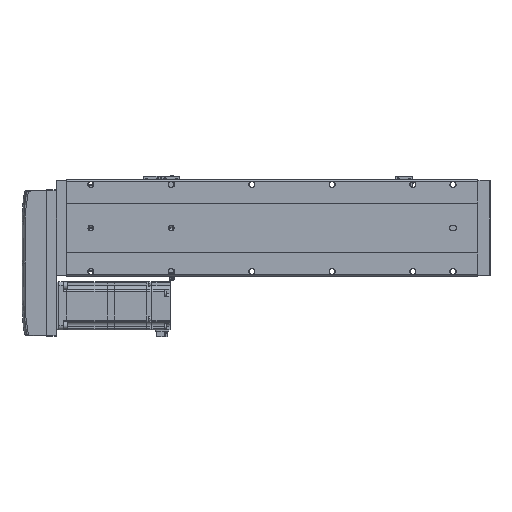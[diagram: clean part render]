
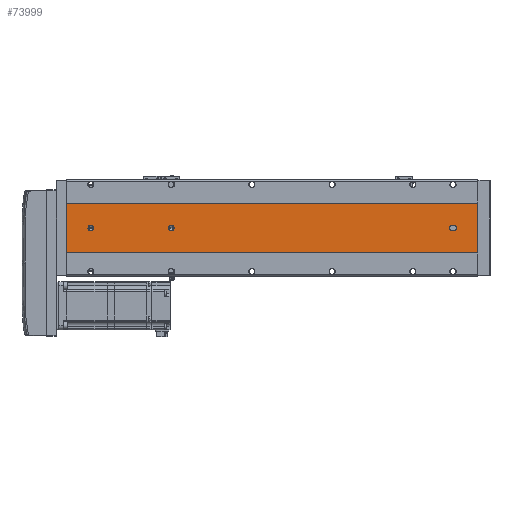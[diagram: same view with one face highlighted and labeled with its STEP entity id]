
A CAD part, front view. The second image highlights one B-rep face of the part: STEP entity #73999.
In plain terms, the highlighted planar face has unit normal (0, -1, 0).
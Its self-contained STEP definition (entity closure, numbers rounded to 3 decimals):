
#32 = VERTEX_POINT ( 'NONE', #16002 ) ;
#1090 = CIRCLE ( 'NONE', #43150, 3.5 ) ;
#2373 = DIRECTION ( 'NONE',  ( 0., 1., 0. ) ) ;
#3595 = VERTEX_POINT ( 'NONE', #73984 ) ;
#3776 = AXIS2_PLACEMENT_3D ( 'NONE', #74038, #30888, #61252 ) ;
#3975 = AXIS2_PLACEMENT_3D ( 'NONE', #27797, #63778, #57408 ) ;
#4975 = VERTEX_POINT ( 'NONE', #21003 ) ;
#5078 = VERTEX_POINT ( 'NONE', #34623 ) ;
#7511 = CARTESIAN_POINT ( 'NONE',  ( -39.892, -52.848, 26.5 ) ) ;
#8767 = DIRECTION ( 'NONE',  ( 1., 0., 0. ) ) ;
#9265 = CIRCLE ( 'NONE', #51108, 3.5 ) ;
#9279 = CARTESIAN_POINT ( 'NONE',  ( -69.892, -52.848, 0. ) ) ;
#10189 = FACE_BOUND ( 'NONE', #37100, .T. ) ;
#10254 = ORIENTED_EDGE ( 'NONE', *, *, #30155, .F. ) ;
#10426 = VECTOR ( 'NONE', #24933, 1000. ) ;
#10622 = EDGE_CURVE ( 'NONE', #23012, #3595, #67519, .T. ) ;
#12265 = CARTESIAN_POINT ( 'NONE',  ( -36.392, -52.848, 30. ) ) ;
#13264 = LINE ( 'NONE', #61424, #10426 ) ;
#13479 = AXIS2_PLACEMENT_3D ( 'NONE', #38010, #20091, #62771 ) ;
#14097 = DIRECTION ( 'NONE',  ( 0., 1., 0. ) ) ;
#14780 = CARTESIAN_POINT ( 'NONE',  ( -43.392, -52.848, 32. ) ) ;
#15010 = FACE_BOUND ( 'NONE', #38718, .T. ) ;
#16002 = CARTESIAN_POINT ( 'NONE',  ( -43.392, -52.848, 30. ) ) ;
#16941 = FACE_BOUND ( 'NONE', #43564, .T. ) ;
#17416 = EDGE_LOOP ( 'NONE', ( #20471, #10254, #39694, #28928 ) ) ;
#19001 = CARTESIAN_POINT ( 'NONE',  ( -69.892, -52.848, 511. ) ) ;
#20091 = DIRECTION ( 'NONE',  ( 0., 1., 0. ) ) ;
#20282 = PLANE ( 'NONE',  #64618 ) ;
#20471 = ORIENTED_EDGE ( 'NONE', *, *, #63886, .T. ) ;
#20847 = VERTEX_POINT ( 'NONE', #14780 ) ;
#21003 = CARTESIAN_POINT ( 'NONE',  ( -69.892, -52.848, 511. ) ) ;
#22027 = CARTESIAN_POINT ( 'NONE',  ( -36.392, -52.848, 511. ) ) ;
#23012 = VERTEX_POINT ( 'NONE', #50183 ) ;
#24044 = AXIS2_PLACEMENT_3D ( 'NONE', #26944, #14097, #39209 ) ;
#24933 = DIRECTION ( 'NONE',  ( 1., 0., 0. ) ) ;
#25640 = ORIENTED_EDGE ( 'NONE', *, *, #46051, .T. ) ;
#26485 = CARTESIAN_POINT ( 'NONE',  ( -69.892, -52.848, 511. ) ) ;
#26944 = CARTESIAN_POINT ( 'NONE',  ( -39.892, -52.848, 381. ) ) ;
#27272 = VERTEX_POINT ( 'NONE', #73099 ) ;
#27406 = ORIENTED_EDGE ( 'NONE', *, *, #27547, .T. ) ;
#27547 = EDGE_CURVE ( 'NONE', #71925, #40323, #9265, .T. ) ;
#27785 = DIRECTION ( 'NONE',  ( 0., 0., 1. ) ) ;
#27797 = CARTESIAN_POINT ( 'NONE',  ( -39.892, -52.848, 481. ) ) ;
#28135 = CIRCLE ( 'NONE', #3776, 3.5 ) ;
#28910 = ORIENTED_EDGE ( 'NONE', *, *, #55929, .T. ) ;
#28928 = ORIENTED_EDGE ( 'NONE', *, *, #36906, .T. ) ;
#29877 = ORIENTED_EDGE ( 'NONE', *, *, #39858, .T. ) ;
#30058 = DIRECTION ( 'NONE',  ( 0., 0., -1. ) ) ;
#30155 = EDGE_CURVE ( 'NONE', #50145, #55621, #53793, .T. ) ;
#30888 = DIRECTION ( 'NONE',  ( 0., 1., 0. ) ) ;
#31277 = FACE_OUTER_BOUND ( 'NONE', #17416, .T. ) ;
#31553 = CARTESIAN_POINT ( 'NONE',  ( -39.892, -52.848, 377.5 ) ) ;
#32585 = DIRECTION ( 'NONE',  ( 0., 1., 0. ) ) ;
#34179 = CARTESIAN_POINT ( 'NONE',  ( -39.892, -52.848, 30. ) ) ;
#34333 = CIRCLE ( 'NONE', #24044, 3.5 ) ;
#34623 = CARTESIAN_POINT ( 'NONE',  ( -36.392, -52.848, 32. ) ) ;
#35519 = EDGE_CURVE ( 'NONE', #4975, #50145, #13264, .T. ) ;
#35639 = VECTOR ( 'NONE', #30058, 1000. ) ;
#35769 = CIRCLE ( 'NONE', #13479, 3.5 ) ;
#35913 = CARTESIAN_POINT ( 'NONE',  ( -9.892, -52.848, 511. ) ) ;
#36493 = ORIENTED_EDGE ( 'NONE', *, *, #77334, .T. ) ;
#36906 = EDGE_CURVE ( 'NONE', #4975, #45544, #61669, .T. ) ;
#37100 = EDGE_LOOP ( 'NONE', ( #48145, #27406, #28910, #36493, #29877 ) ) ;
#37814 = VECTOR ( 'NONE', #67584, 1000. ) ;
#38010 = CARTESIAN_POINT ( 'NONE',  ( -39.892, -52.848, 32. ) ) ;
#38311 = DIRECTION ( 'NONE',  ( 0., 0., 1. ) ) ;
#38572 = CARTESIAN_POINT ( 'NONE',  ( -43.392, -52.848, 511. ) ) ;
#38718 = EDGE_LOOP ( 'NONE', ( #60186, #25640 ) ) ;
#39209 = DIRECTION ( 'NONE',  ( 0., 0., 1. ) ) ;
#39694 = ORIENTED_EDGE ( 'NONE', *, *, #35519, .F. ) ;
#39858 = EDGE_CURVE ( 'NONE', #20847, #5078, #35769, .T. ) ;
#40314 = DIRECTION ( 'NONE',  ( 0., 0., 1. ) ) ;
#40323 = VERTEX_POINT ( 'NONE', #7511 ) ;
#43150 = AXIS2_PLACEMENT_3D ( 'NONE', #55292, #67544, #73642 ) ;
#43564 = EDGE_LOOP ( 'NONE', ( #69241, #67987 ) ) ;
#43634 = VERTEX_POINT ( 'NONE', #31553 ) ;
#44002 = EDGE_CURVE ( 'NONE', #43634, #27272, #34333, .T. ) ;
#45346 = LINE ( 'NONE', #38572, #53902 ) ;
#45394 = VECTOR ( 'NONE', #8767, 1000. ) ;
#45544 = VERTEX_POINT ( 'NONE', #79167 ) ;
#46051 = EDGE_CURVE ( 'NONE', #3595, #23012, #72186, .T. ) ;
#47903 = EDGE_CURVE ( 'NONE', #5078, #71925, #70891, .T. ) ;
#48145 = ORIENTED_EDGE ( 'NONE', *, *, #47903, .T. ) ;
#50145 = VERTEX_POINT ( 'NONE', #77734 ) ;
#50183 = CARTESIAN_POINT ( 'NONE',  ( -39.892, -52.848, 477.5 ) ) ;
#51108 = AXIS2_PLACEMENT_3D ( 'NONE', #34179, #76790, #40314 ) ;
#51799 = VECTOR ( 'NONE', #76664, 1000. ) ;
#53793 = LINE ( 'NONE', #35913, #35639 ) ;
#53902 = VECTOR ( 'NONE', #38311, 1000. ) ;
#55292 = CARTESIAN_POINT ( 'NONE',  ( -39.892, -52.848, 381. ) ) ;
#55621 = VERTEX_POINT ( 'NONE', #75433 ) ;
#55929 = EDGE_CURVE ( 'NONE', #40323, #32, #28135, .T. ) ;
#57408 = DIRECTION ( 'NONE',  ( 0., 0., 1. ) ) ;
#57960 = EDGE_CURVE ( 'NONE', #27272, #43634, #1090, .T. ) ;
#60186 = ORIENTED_EDGE ( 'NONE', *, *, #10622, .T. ) ;
#61252 = DIRECTION ( 'NONE',  ( 0., 0., 1. ) ) ;
#61424 = CARTESIAN_POINT ( 'NONE',  ( -69.892, -52.848, 511. ) ) ;
#61669 = LINE ( 'NONE', #19001, #37814 ) ;
#62771 = DIRECTION ( 'NONE',  ( 0., 0., 1. ) ) ;
#63488 = AXIS2_PLACEMENT_3D ( 'NONE', #69365, #2373, #69106 ) ;
#63778 = DIRECTION ( 'NONE',  ( 0., 1., 0. ) ) ;
#63886 = EDGE_CURVE ( 'NONE', #45544, #55621, #74870, .T. ) ;
#64618 = AXIS2_PLACEMENT_3D ( 'NONE', #26485, #32585, #27785 ) ;
#67519 = CIRCLE ( 'NONE', #3975, 3.5 ) ;
#67544 = DIRECTION ( 'NONE',  ( 0., 1., 0. ) ) ;
#67584 = DIRECTION ( 'NONE',  ( 0., 0., -1. ) ) ;
#67987 = ORIENTED_EDGE ( 'NONE', *, *, #57960, .T. ) ;
#69106 = DIRECTION ( 'NONE',  ( 0., 0., 1. ) ) ;
#69241 = ORIENTED_EDGE ( 'NONE', *, *, #44002, .T. ) ;
#69365 = CARTESIAN_POINT ( 'NONE',  ( -39.892, -52.848, 481. ) ) ;
#70891 = LINE ( 'NONE', #22027, #51799 ) ;
#71925 = VERTEX_POINT ( 'NONE', #12265 ) ;
#72186 = CIRCLE ( 'NONE', #63488, 3.5 ) ;
#73099 = CARTESIAN_POINT ( 'NONE',  ( -39.892, -52.848, 384.5 ) ) ;
#73642 = DIRECTION ( 'NONE',  ( 0., 0., 1. ) ) ;
#73984 = CARTESIAN_POINT ( 'NONE',  ( -39.892, -52.848, 484.5 ) ) ;
#73999 = ADVANCED_FACE ( 'NONE', ( #10189, #16941, #15010, #31277 ), #20282, .F. ) ;
#74038 = CARTESIAN_POINT ( 'NONE',  ( -39.892, -52.848, 30. ) ) ;
#74870 = LINE ( 'NONE', #9279, #45394 ) ;
#75433 = CARTESIAN_POINT ( 'NONE',  ( -9.892, -52.848, 0. ) ) ;
#76664 = DIRECTION ( 'NONE',  ( 0., 0., -1. ) ) ;
#76790 = DIRECTION ( 'NONE',  ( 0., 1., 0. ) ) ;
#77334 = EDGE_CURVE ( 'NONE', #32, #20847, #45346, .T. ) ;
#77734 = CARTESIAN_POINT ( 'NONE',  ( -9.892, -52.848, 511. ) ) ;
#79167 = CARTESIAN_POINT ( 'NONE',  ( -69.892, -52.848, 0. ) ) ;
